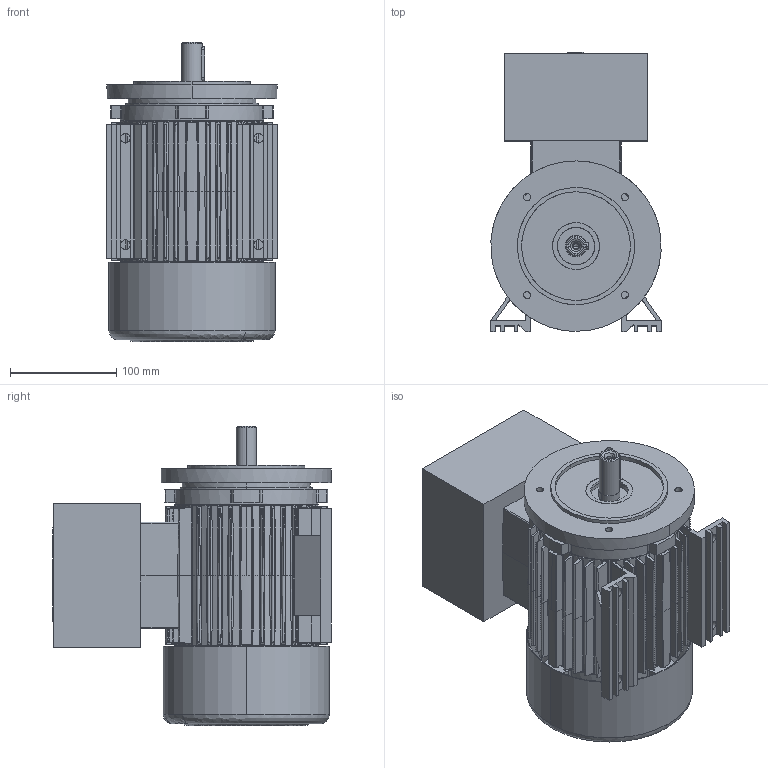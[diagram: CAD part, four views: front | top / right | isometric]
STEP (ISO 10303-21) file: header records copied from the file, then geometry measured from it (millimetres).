
FILE_DESCRIPTION (( 'STEP AP214' ), '1' );
FILE_NAME ('20.18391-G 5AT 80 B34_F130 Exd STANDK.STEP', '2018-11-15T08:50:29', ( '' ), ( '' ), 'SwSTEP 2.0', 'SolidWorks 2018', '' );
FILE_SCHEMA (( 'AUTOMOTIVE_DESIGN' ));
Length unit declared in the file: millimetre
Products named in the file (1): 20.18391-G 5AT 80 B34_F130 Exd STANDK
Bounding box: 160 x 262 x 281 mm (x, y, z)
Volume: 3372856.2 mm3; surface area: 554979.3 mm2
Topology: 6 solids, 14 shells, 1026 faces, 2588 edges, 1640 vertices
Faces by surface type: plane 382, bspline 234, cylinder 211, cone 199
Entity records: 60531 total; most frequent: CARTESIAN_POINT 30062, ORIENTED_EDGE 5148, DIRECTION 3229, EDGE_CURVE 2574, VERTEX_POINT 1640, B_SPLINE_CURVE_WITH_KNOTS 1277, AXIS2_PLACEMENT_3D 1152, EDGE_LOOP 1124
